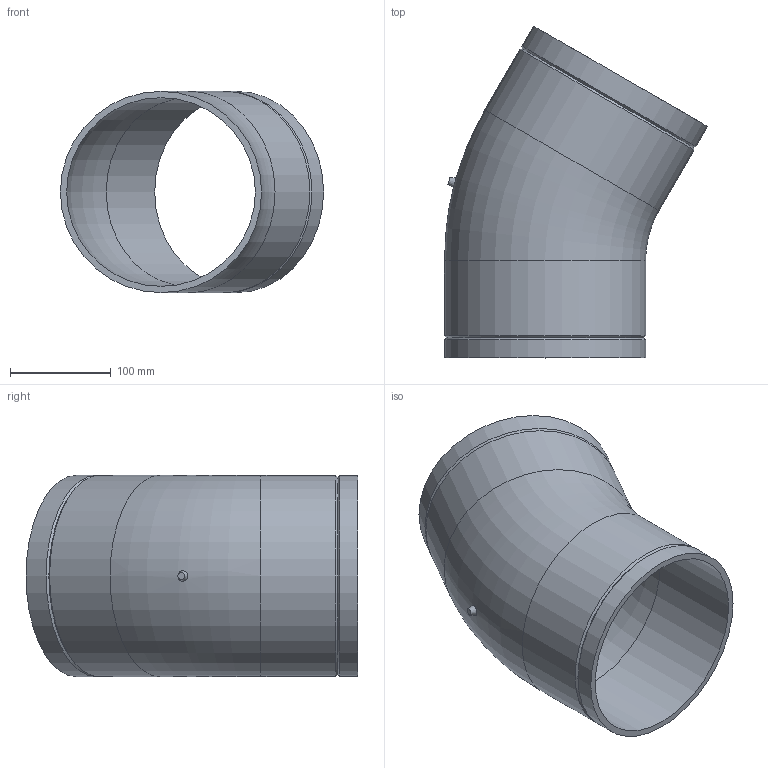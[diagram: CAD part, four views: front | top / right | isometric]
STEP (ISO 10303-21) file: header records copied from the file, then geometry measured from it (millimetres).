
FILE_DESCRIPTION(/* description */ (''),/* implementation_level */ '2;1');
FILE_NAME(/* name */ 'Z:\Geberit\Export\NewStep\PE Bogen Einzelteil_Ipart\stp\370030.stp',/* time_stamp */ '2014-04-02T11:55:30+02:00',/* author */ ('bruh'),/* organization */ (''),/* preprocessor_version */ 'ST-DEVELOPER v15.2',/* originating_system */ 'Autodesk Inventor 2014',/* authorisation */ '');
FILE_SCHEMA (('AUTOMOTIVE_DESIGN { 1 0 10303 214 3 1 1 }'));
Length unit declared in the file: millimetre
Products named in the file (1): 370030
Bounding box: 261.6 x 329.9 x 200 mm (x, y, z)
Volume: 1118521.7 mm3; surface area: 371996.2 mm2
Topology: 1 solids, 1 shells, 16 faces, 34 edges, 20 vertices
Faces by surface type: cylinder 6, cone 5, plane 3, torus 2
Full cylindrical faces by diameter (mm): 187.6 x2, 200 x4
Entity records: 405 total; most frequent: CARTESIAN_POINT 92, DIRECTION 64, EDGE_LOOP 32, ORIENTED_EDGE 32, AXIS2_PLACEMENT_3D 32, FACE_BOUND 18, STYLED_ITEM 17, VERTEX_POINT 16
